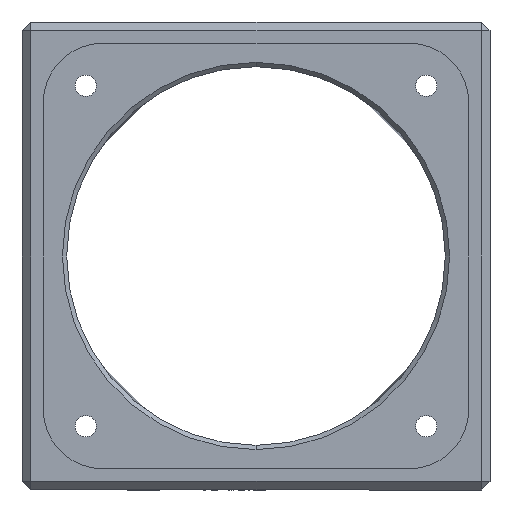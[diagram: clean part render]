
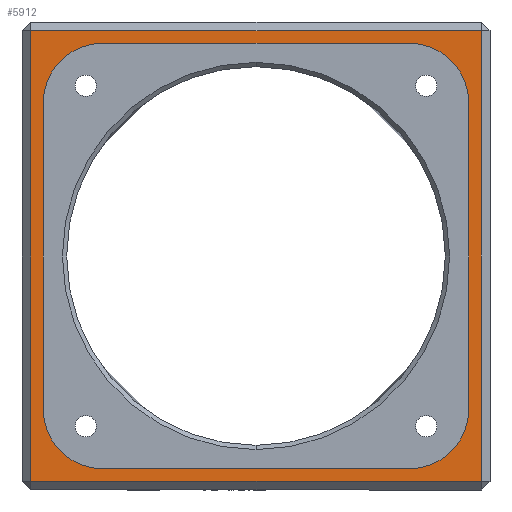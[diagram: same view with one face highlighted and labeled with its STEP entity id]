
A CAD part, front view. The second image highlights one B-rep face of the part: STEP entity #5912.
In plain terms, the highlighted planar face has unit normal (0, -1, 0).
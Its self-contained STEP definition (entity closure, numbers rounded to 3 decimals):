
#310 = DIRECTION ( 'NONE',  ( -1., 0., 0. ) ) ;
#340 = CARTESIAN_POINT ( 'NONE',  ( -11.912, -27.569, 73. ) ) ;
#676 = ORIENTED_EDGE ( 'NONE', *, *, #11079, .T. ) ;
#791 = CARTESIAN_POINT ( 'NONE',  ( 24.088, -27.569, 37. ) ) ;
#846 = DIRECTION ( 'NONE',  ( 0., 0., 1. ) ) ;
#922 = CARTESIAN_POINT ( 'NONE',  ( 6.088, -27.569, 81.5 ) ) ;
#1007 = DIRECTION ( 'NONE',  ( 0., 1., 0. ) ) ;
#1043 = LINE ( 'NONE', #3860, #2234 ) ;
#1129 = VECTOR ( 'NONE', #2153, 1000. ) ;
#1157 = AXIS2_PLACEMENT_3D ( 'NONE', #340, #4153, #6648 ) ;
#1279 = VERTEX_POINT ( 'NONE', #10811 ) ;
#1293 = VECTOR ( 'NONE', #310, 1000. ) ;
#1577 = LINE ( 'NONE', #10553, #3469 ) ;
#1625 = ORIENTED_EDGE ( 'NONE', *, *, #5080, .T. ) ;
#1794 = DIRECTION ( 'NONE',  ( 0., 0., -1. ) ) ;
#1911 = DIRECTION ( 'NONE',  ( -1., 0., 0. ) ) ;
#1918 = AXIS2_PLACEMENT_3D ( 'NONE', #5245, #5189, #6126 ) ;
#1948 = AXIS2_PLACEMENT_3D ( 'NONE', #791, #9887, #846 ) ;
#2153 = DIRECTION ( 'NONE',  ( 0., 0., 1. ) ) ;
#2203 = CARTESIAN_POINT ( 'NONE',  ( -18.912, -27.569, 73. ) ) ;
#2234 = VECTOR ( 'NONE', #9101, 1000. ) ;
#2387 = VERTEX_POINT ( 'NONE', #4633 ) ;
#2396 = PLANE ( 'NONE',  #10089 ) ;
#2864 = DIRECTION ( 'NONE',  ( 0., 0., -1. ) ) ;
#2888 = CARTESIAN_POINT ( 'NONE',  ( 31.088, -27.569, 30. ) ) ;
#2894 = CIRCLE ( 'NONE', #1948, 7. ) ;
#3094 = EDGE_LOOP ( 'NONE', ( #4031, #1625, #3334, #9705 ) ) ;
#3123 = DIRECTION ( 'NONE',  ( 0., 1., 0. ) ) ;
#3253 = FACE_OUTER_BOUND ( 'NONE', #3094, .T. ) ;
#3294 = EDGE_CURVE ( 'NONE', #11329, #1279, #8311, .T. ) ;
#3312 = VERTEX_POINT ( 'NONE', #4691 ) ;
#3334 = ORIENTED_EDGE ( 'NONE', *, *, #4645, .T. ) ;
#3469 = VECTOR ( 'NONE', #1794, 1000. ) ;
#3477 = AXIS2_PLACEMENT_3D ( 'NONE', #5434, #1007, #4575 ) ;
#3516 = ORIENTED_EDGE ( 'NONE', *, *, #9226, .T. ) ;
#3580 = CARTESIAN_POINT ( 'NONE',  ( 24.088, -27.569, 30. ) ) ;
#3624 = CARTESIAN_POINT ( 'NONE',  ( -20.412, -27.569, 81.5 ) ) ;
#3679 = ORIENTED_EDGE ( 'NONE', *, *, #3294, .T. ) ;
#3860 = CARTESIAN_POINT ( 'NONE',  ( 32.588, -27.569, 55. ) ) ;
#3930 = CARTESIAN_POINT ( 'NONE',  ( 32.588, -27.569, 28.5 ) ) ;
#3982 = VERTEX_POINT ( 'NONE', #8248 ) ;
#4031 = ORIENTED_EDGE ( 'NONE', *, *, #10517, .T. ) ;
#4153 = DIRECTION ( 'NONE',  ( 0., 1., 0. ) ) ;
#4553 = ORIENTED_EDGE ( 'NONE', *, *, #7756, .T. ) ;
#4575 = DIRECTION ( 'NONE',  ( 0., 0., 1. ) ) ;
#4633 = CARTESIAN_POINT ( 'NONE',  ( 32.588, -27.569, 81.5 ) ) ;
#4645 = EDGE_CURVE ( 'NONE', #7383, #2387, #1043, .T. ) ;
#4691 = CARTESIAN_POINT ( 'NONE',  ( 31.088, -27.569, 73. ) ) ;
#4899 = EDGE_CURVE ( 'NONE', #3982, #11466, #7759, .T. ) ;
#4917 = VECTOR ( 'NONE', #1911, 1000. ) ;
#4941 = VECTOR ( 'NONE', #2864, 1000. ) ;
#5080 = EDGE_CURVE ( 'NONE', #6251, #7383, #9920, .T. ) ;
#5181 = VERTEX_POINT ( 'NONE', #11419 ) ;
#5189 = DIRECTION ( 'NONE',  ( 0., 1., 0. ) ) ;
#5245 = CARTESIAN_POINT ( 'NONE',  ( 24.088, -27.569, 73. ) ) ;
#5276 = EDGE_LOOP ( 'NONE', ( #3679, #5911, #10824, #4553, #10107, #3516, #8936, #676 ) ) ;
#5434 = CARTESIAN_POINT ( 'NONE',  ( -11.912, -27.569, 37. ) ) ;
#5504 = CARTESIAN_POINT ( 'NONE',  ( 31.088, -27.569, 37. ) ) ;
#5911 = ORIENTED_EDGE ( 'NONE', *, *, #11090, .T. ) ;
#5912 = ADVANCED_FACE ( 'NONE', ( #3253, #6896 ), #2396, .F. ) ;
#6126 = DIRECTION ( 'NONE',  ( 0., 0., 1. ) ) ;
#6251 = VERTEX_POINT ( 'NONE', #8472 ) ;
#6253 = CIRCLE ( 'NONE', #3477, 7. ) ;
#6422 = DIRECTION ( 'NONE',  ( 1., 0., 0. ) ) ;
#6648 = DIRECTION ( 'NONE',  ( 0., 0., 1. ) ) ;
#6839 = CARTESIAN_POINT ( 'NONE',  ( 6.088, -27.569, 55. ) ) ;
#6896 = FACE_BOUND ( 'NONE', #5276, .T. ) ;
#6950 = LINE ( 'NONE', #7935, #9025 ) ;
#7164 = VERTEX_POINT ( 'NONE', #5504 ) ;
#7297 = LINE ( 'NONE', #10840, #4941 ) ;
#7383 = VERTEX_POINT ( 'NONE', #3930 ) ;
#7756 = EDGE_CURVE ( 'NONE', #11466, #5181, #10835, .T. ) ;
#7759 = LINE ( 'NONE', #11310, #1129 ) ;
#7935 = CARTESIAN_POINT ( 'NONE',  ( 31.088, -27.569, 80. ) ) ;
#7981 = VERTEX_POINT ( 'NONE', #3624 ) ;
#8152 = CARTESIAN_POINT ( 'NONE',  ( 6.088, -27.569, 28.5 ) ) ;
#8248 = CARTESIAN_POINT ( 'NONE',  ( -18.912, -27.569, 37. ) ) ;
#8311 = LINE ( 'NONE', #2888, #1293 ) ;
#8472 = CARTESIAN_POINT ( 'NONE',  ( -20.412, -27.569, 28.5 ) ) ;
#8775 = DIRECTION ( 'NONE',  ( 1., 0., 0. ) ) ;
#8786 = EDGE_CURVE ( 'NONE', #5181, #9502, #6950, .T. ) ;
#8840 = CIRCLE ( 'NONE', #1918, 7. ) ;
#8936 = ORIENTED_EDGE ( 'NONE', *, *, #10717, .T. ) ;
#8983 = VECTOR ( 'NONE', #6422, 1000. ) ;
#9025 = VECTOR ( 'NONE', #8775, 1000. ) ;
#9036 = EDGE_CURVE ( 'NONE', #2387, #7981, #9922, .T. ) ;
#9101 = DIRECTION ( 'NONE',  ( 0., 0., 1. ) ) ;
#9226 = EDGE_CURVE ( 'NONE', #9502, #3312, #8840, .T. ) ;
#9263 = CARTESIAN_POINT ( 'NONE',  ( 24.088, -27.569, 80. ) ) ;
#9502 = VERTEX_POINT ( 'NONE', #9263 ) ;
#9705 = ORIENTED_EDGE ( 'NONE', *, *, #9036, .T. ) ;
#9887 = DIRECTION ( 'NONE',  ( 0., 1., 0. ) ) ;
#9920 = LINE ( 'NONE', #8152, #8983 ) ;
#9922 = LINE ( 'NONE', #922, #4917 ) ;
#10089 = AXIS2_PLACEMENT_3D ( 'NONE', #6839, #3123, #10395 ) ;
#10107 = ORIENTED_EDGE ( 'NONE', *, *, #8786, .T. ) ;
#10395 = DIRECTION ( 'NONE',  ( 0., 0., 1. ) ) ;
#10517 = EDGE_CURVE ( 'NONE', #7981, #6251, #7297, .T. ) ;
#10553 = CARTESIAN_POINT ( 'NONE',  ( 31.088, -27.569, 80. ) ) ;
#10717 = EDGE_CURVE ( 'NONE', #3312, #7164, #1577, .T. ) ;
#10811 = CARTESIAN_POINT ( 'NONE',  ( -11.912, -27.569, 30. ) ) ;
#10824 = ORIENTED_EDGE ( 'NONE', *, *, #4899, .T. ) ;
#10835 = CIRCLE ( 'NONE', #1157, 7. ) ;
#10840 = CARTESIAN_POINT ( 'NONE',  ( -20.412, -27.569, 55. ) ) ;
#11079 = EDGE_CURVE ( 'NONE', #7164, #11329, #2894, .T. ) ;
#11090 = EDGE_CURVE ( 'NONE', #1279, #3982, #6253, .T. ) ;
#11310 = CARTESIAN_POINT ( 'NONE',  ( -18.912, -27.569, 80. ) ) ;
#11329 = VERTEX_POINT ( 'NONE', #3580 ) ;
#11419 = CARTESIAN_POINT ( 'NONE',  ( -11.912, -27.569, 80. ) ) ;
#11466 = VERTEX_POINT ( 'NONE', #2203 ) ;
